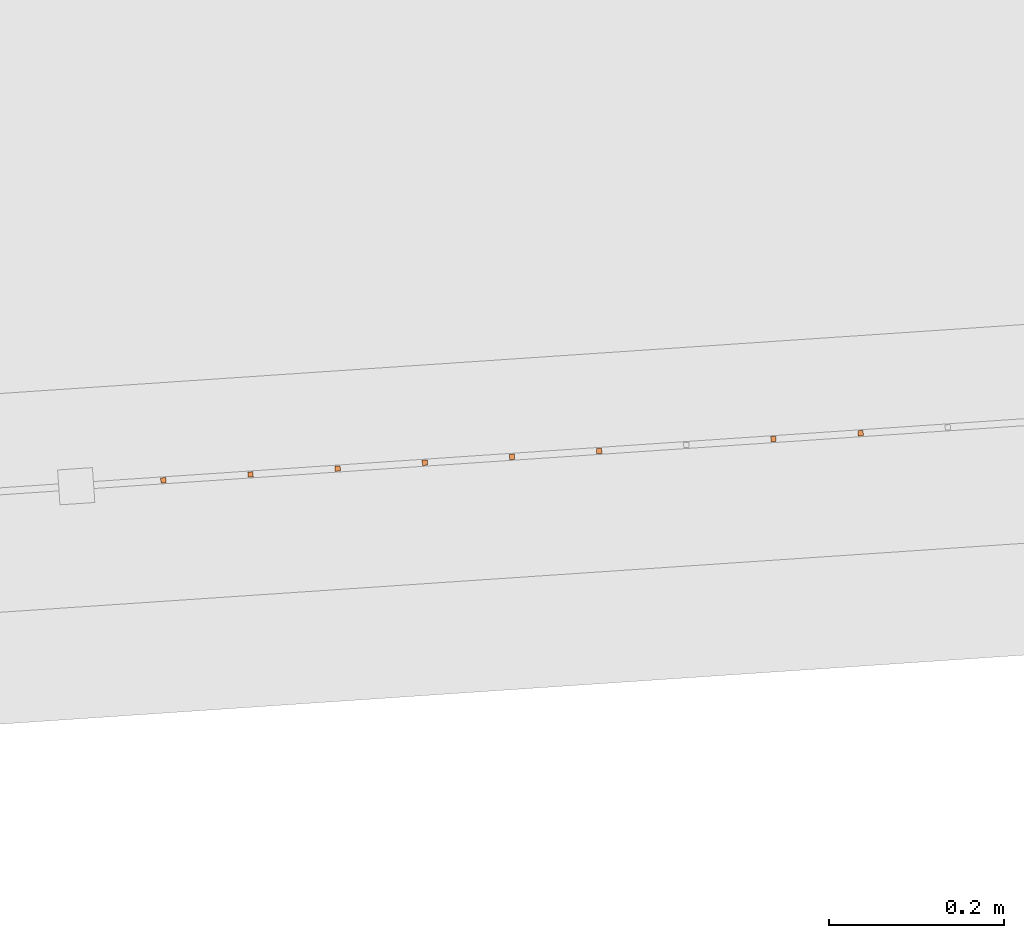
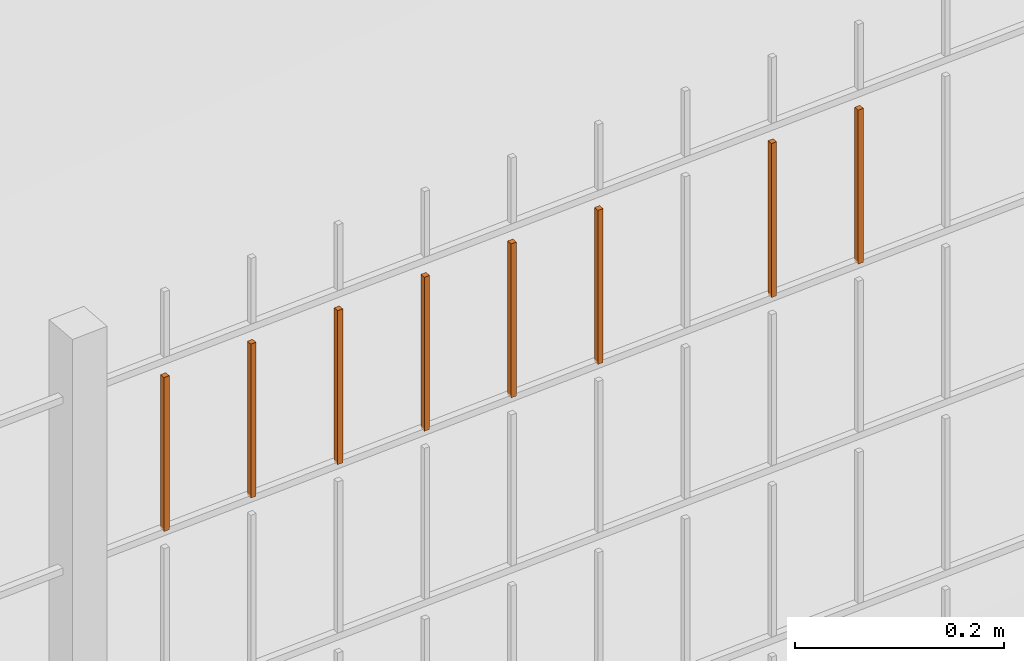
# One storey, part 183 of 1809: 8 proxies, 1 element without a shape of its own.
"""IFC2X3 building model written with IfcOpenShell, lengths in millimetres."""

from ifc_helpers import new_model, entity, si_unit, converted_unit, derived_unit, money_unit, direction, frame, origin_with_axes, place, context, subcontext, project, spatial, faceted_brep, source, transform, mapped, material, type_object, element, aggregate, save


model = new_model("IFC2X3")

# Units and contexts
model_context = context("Model", 3, precision=0.01, world=origin_with_axes(), true_north=direction((0.0, 1.0)))
body_context = subcontext(model_context, "Body", "Model", "MODEL_VIEW")
ifc_project = project(units=[si_unit("LENGTHUNIT", "METRE", prefix="MILLI"), si_unit("AREAUNIT", "SQUARE_METRE"), si_unit("VOLUMEUNIT", "CUBIC_METRE"), converted_unit("PLANEANGLEUNIT", "DEGREE", entity("IfcPlaneAngleMeasure", 0.0174532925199), si_unit("PLANEANGLEUNIT", "RADIAN"), dimensions=[0, 0, 0, 0, 0, 0, 0]), si_unit("SOLIDANGLEUNIT", "STERADIAN"), money_unit("EUR"), converted_unit("TIMEUNIT", "Year", entity("IfcTimeMeasure", 31556926.0), si_unit("TIMEUNIT", "SECOND"), dimensions=[0, 0, 1, 0, 0, 0, 0]), si_unit("MASSUNIT", "GRAM", prefix="KILO"), si_unit("THERMODYNAMICTEMPERATUREUNIT", "DEGREE_CELSIUS"), si_unit("LUMINOUSINTENSITYUNIT", "LUMEN"), si_unit("ENERGYUNIT", "JOULE", prefix="MEGA"), derived_unit("THERMALCONDUCTANCEUNIT", [(si_unit("POWERUNIT", "WATT"), 1), (si_unit("LENGTHUNIT", "METRE"), -1), (si_unit("THERMODYNAMICTEMPERATUREUNIT", "KELVIN"), -1)]), derived_unit("SPECIFICHEATCAPACITYUNIT", [(si_unit("ENERGYUNIT", "JOULE"), 1), (si_unit("MASSUNIT", "GRAM", prefix="KILO"), -1), (si_unit("THERMODYNAMICTEMPERATUREUNIT", "KELVIN"), -1)]), derived_unit("MASSDENSITYUNIT", [(si_unit("MASSUNIT", "GRAM", prefix="KILO"), 1), (si_unit("VOLUMEUNIT", "CUBIC_METRE"), -1)])], contexts=[model_context])

# Site, building, storey
site_placement = place(None, origin_with_axes())
site = spatial("IfcSite", under=ifc_project, at=site_placement, Name="Politse- ja Piirivalveameti ning Päästeameti ühishoone", CompositionType="ELEMENT")
building_placement = place(site_placement, origin_with_axes())
building = spatial("IfcBuilding", under=site, at=building_placement, Name="Politse- ja Piirivalveameti ning Päästeameti ühishoone", CompositionType="ELEMENT")
storey_placement = place(building_placement, origin_with_axes())
storey = spatial("IfcBuildingStorey", under=building, at=storey_placement, Name="Esimene korrus", CompositionType="ELEMENT", Elevation=0.0)

# Proxies
building_element_proxy_type_1 = type_object("IfcBuildingElementProxyType", Name="Railing Type", PredefinedType="NOTDEFINED")
proxy_1_placement = place(storey_placement, frame((89252.001212, -29183.4766571, 203.661247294), z_axis=(0.0, 0.0, 1.0), x_axis=(1.0, 0.0, 0.0)))
proxy_1 = element("IfcBuildingElementProxy", 1, at=proxy_1_placement, inside=storey, type_object=building_element_proxy_type_1, Name="PIIRDEAED")
ifc_material = material(Name="ET-03_Raud")
building_element_proxy_type_2 = type_object("IfcBuildingElementProxyType", Name="IfcBuildingElementProxy", PredefinedType="NOTDEFINED")
shared_shape_1 = source(origin_with_axes(), body_context, "Body", "Brep", [
    faceted_brep([(3.0, 3.0, -0.000752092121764), (-3.0, 3.0, -0.000752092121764), (-3.0, 3.0, 179.99926046), (3.0, 3.0, 179.99926046), (3.0, -3.0, 0.000752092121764), (-3.0, -3.0, 0.000752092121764), (-3.0, -3.0, 180.000764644), (3.0, -3.0, 180.000764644)], [[[0, 1, 2, 3]], [[0, 4, 5, 1]], [[1, 5, 6, 2]], [[3, 2, 6, 7]], [[4, 0, 3, 7]], [[5, 4, 7, 6]]]),
])
proxy_2_placement = place(proxy_1_placement, frame((-71962.710125, -22158.5842531, 1809.15241425), z_axis=(0.0, 0.0, 1.0), x_axis=(1.0, 0.0, 0.0)))
proxy_2 = element("IfcBuildingElementProxy", 2, at=proxy_2_placement, type_object=building_element_proxy_type_2, material=ifc_material, Name="BALUSTER - 001", context=body_context, shape_type="MappedRepresentation", body=[
    mapped(shared_shape_1, transform((0.0, 0.0, 0.0), x_axis=(-0.0673926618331, 0.997726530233, 0.0), y_axis=(-0.997726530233, -0.0673926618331, 0.0), z_axis=(0.0, 0.0, 1.0))),
])
shared_shape_2 = source(origin_with_axes(), body_context, "Body", "Brep", [
    faceted_brep([(3.0, 3.0, -0.000752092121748), (-3.0, 3.0, -0.00075209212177), (-3.0, 3.0, 179.99926046), (3.0, 3.0, 179.99926046), (3.0, -3.0, 0.00075209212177), (-3.0, -3.0, 0.000752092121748), (-3.0, -3.0, 180.000764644), (3.0, -3.0, 180.000764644)], [[[0, 1, 2, 3]], [[0, 4, 5, 1]], [[1, 5, 6, 2]], [[3, 2, 6, 7]], [[4, 0, 3, 7]], [[5, 4, 7, 6]]]),
])
proxy_3_placement = place(proxy_1_placement, frame((-71264.3015538, -22111.4093898, 1809.32790241), z_axis=(0.0, 0.0, 1.0), x_axis=(1.0, 0.0, 0.0)))
proxy_3 = element("IfcBuildingElementProxy", 3, at=proxy_3_placement, type_object=building_element_proxy_type_2, material=ifc_material, Name="BALUSTER - 001", context=body_context, shape_type="MappedRepresentation", body=[
    mapped(shared_shape_2, transform((0.0, 0.0, 0.0), x_axis=(-0.0673926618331, 0.997726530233, 0.0), y_axis=(-0.997726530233, -0.0673926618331, 0.0), z_axis=(0.0, 0.0, 1.0))),
])
proxy_4_placement = place(proxy_1_placement, frame((-71862.937472, -22151.8449869, 1809.17748398), z_axis=(0.0, 0.0, 1.0), x_axis=(1.0, 0.0, 0.0)))
proxy_4 = element("IfcBuildingElementProxy", 4, at=proxy_4_placement, type_object=building_element_proxy_type_2, material=ifc_material, Name="BALUSTER - 001", context=body_context, shape_type="MappedRepresentation", body=[
    mapped(shared_shape_2, transform((0.0, 0.0, 0.0), x_axis=(-0.0673926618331, 0.997726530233, 0.0), y_axis=(-0.997726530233, -0.0673926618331, 0.0), z_axis=(0.0, 0.0, 1.0))),
])
shared_shape_3 = source(origin_with_axes(), body_context, "Body", "Brep", [
    faceted_brep([(3.0, 3.0, -0.000752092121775), (-3.0, 3.0, -0.000752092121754), (-3.0, 3.0, 179.99926046), (3.0, 3.0, 179.99926046), (3.0, -3.0, 0.000752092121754), (-3.0, -3.0, 0.000752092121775), (-3.0, -3.0, 180.000764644), (3.0, -3.0, 180.000764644)], [[[0, 1, 2, 3]], [[0, 4, 5, 1]], [[1, 5, 6, 2]], [[3, 2, 6, 7]], [[4, 0, 3, 7]], [[5, 4, 7, 6]]]),
])
proxy_5_placement = place(proxy_1_placement, frame((-71364.0742069, -22118.148656, 1809.30283267), z_axis=(0.0, 0.0, 1.0), x_axis=(1.0, 0.0, 0.0)))
proxy_5 = element("IfcBuildingElementProxy", 5, at=proxy_5_placement, type_object=building_element_proxy_type_2, material=ifc_material, Name="BALUSTER - 001", context=body_context, shape_type="MappedRepresentation", body=[
    mapped(shared_shape_3, transform((0.0, 0.0, 0.0), x_axis=(-0.0673926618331, 0.997726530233, 0.0), y_axis=(-0.997726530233, -0.0673926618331, 0.0), z_axis=(0.0, 0.0, 1.0))),
])
shared_shape_4 = source(origin_with_axes(), body_context, "Body", "Brep", [
    faceted_brep([(3.0, 3.0, -0.000752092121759), (-3.0, 3.0, -0.000752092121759), (-3.0, 3.0, 179.99926046), (3.0, 3.0, 179.99926046), (3.0, -3.0, 0.000752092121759), (-3.0, -3.0, 0.000752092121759), (-3.0, -3.0, 180.000764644), (3.0, -3.0, 180.000764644)], [[[0, 1, 2, 3]], [[0, 4, 5, 1]], [[1, 5, 6, 2]], [[3, 2, 6, 7]], [[4, 0, 3, 7]], [[5, 4, 7, 6]]]),
])
proxy_6_placement = place(proxy_1_placement, frame((-71663.3921659, -22138.3664545, 1809.22762346), z_axis=(0.0, 0.0, 1.0), x_axis=(1.0, 0.0, 0.0)))
proxy_6 = element("IfcBuildingElementProxy", 6, at=proxy_6_placement, type_object=building_element_proxy_type_2, material=ifc_material, Name="BALUSTER - 001", context=body_context, shape_type="MappedRepresentation", body=[
    mapped(shared_shape_4, transform((0.0, 0.0, 0.0), x_axis=(-0.0673926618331, 0.997726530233, 0.0), y_axis=(-0.997726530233, -0.0673926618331, 0.0), z_axis=(0.0, 0.0, 1.0))),
])
shared_shape_5 = source(origin_with_axes(), body_context, "Body", "Brep", [
    faceted_brep([(3.0, 3.0, -0.000752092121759), (-3.0, 3.0, -0.000752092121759), (-3.0, 3.0, 179.99926046), (3.0, 3.0, 179.99926046), (3.0, -3.0, 0.000752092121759), (-3.0, -3.0, 0.000752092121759), (-3.0, -3.0, 180.000764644), (3.0, -3.0, 180.000764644)], [[[0, 1, 2, 3]], [[0, 4, 5, 1]], [[1, 5, 6, 2]], [[3, 2, 6, 7]], [[4, 0, 3, 7]], [[5, 4, 7, 6]]]),
])
proxy_7_placement = place(proxy_1_placement, frame((-72062.482778, -22165.3235193, 1809.12734451), z_axis=(0.0, 0.0, 1.0), x_axis=(1.0, 0.0, 0.0)))
proxy_7 = element("IfcBuildingElementProxy", 7, at=proxy_7_placement, type_object=building_element_proxy_type_2, material=ifc_material, Name="BALUSTER - 001", context=body_context, shape_type="MappedRepresentation", body=[
    mapped(shared_shape_5, transform((0.0, 0.0, 0.0), x_axis=(-0.0673926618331, 0.997726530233, 0.0), y_axis=(-0.997726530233, -0.0673926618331, 0.0), z_axis=(0.0, 0.0, 1.0))),
])
shared_shape_6 = source(origin_with_axes(), body_context, "Body", "Brep", [
    faceted_brep([(3.0, 3.0, -0.000752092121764), (-3.0, 3.0, -0.000752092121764), (-3.0, 3.0, 179.99926046), (3.0, 3.0, 179.99926046), (3.0, -3.0, 0.000752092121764), (-3.0, -3.0, 0.000752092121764), (-3.0, -3.0, 180.000764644), (3.0, -3.0, 180.000764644)], [[[0, 1, 2, 3]], [[0, 4, 5, 1]], [[1, 5, 6, 2]], [[3, 2, 6, 7]], [[4, 0, 3, 7]], [[5, 4, 7, 6]]]),
])
proxy_8_placement = place(proxy_1_placement, frame((-71563.6195129, -22131.6271883, 1809.2526932), z_axis=(0.0, 0.0, 1.0), x_axis=(1.0, 0.0, 0.0)))
proxy_8 = element("IfcBuildingElementProxy", 8, at=proxy_8_placement, type_object=building_element_proxy_type_2, material=ifc_material, Name="BALUSTER - 001", context=body_context, shape_type="MappedRepresentation", body=[
    mapped(shared_shape_6, transform((0.0, 0.0, 0.0), x_axis=(-0.0673926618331, 0.997726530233, 0.0), y_axis=(-0.997726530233, -0.0673926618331, 0.0), z_axis=(0.0, 0.0, 1.0))),
])
shared_shape_7 = source(origin_with_axes(), body_context, "Body", "Brep", [
    faceted_brep([(3.0, 3.0, -0.000752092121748), (-3.0, 3.0, -0.00075209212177), (-3.0, 3.0, 179.99926046), (3.0, 3.0, 179.99926046), (3.0, -3.0, 0.00075209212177), (-3.0, -3.0, 0.000752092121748), (-3.0, -3.0, 180.000764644), (3.0, -3.0, 180.000764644)], [[[0, 1, 2, 3]], [[0, 4, 5, 1]], [[1, 5, 6, 2]], [[3, 2, 6, 7]], [[4, 0, 3, 7]], [[5, 4, 7, 6]]]),
])
proxy_9_placement = place(proxy_1_placement, frame((-71763.1648189, -22145.1057207, 1809.20255372), z_axis=(0.0, 0.0, 1.0), x_axis=(1.0, 0.0, 0.0)))
proxy_9 = element("IfcBuildingElementProxy", 9, at=proxy_9_placement, type_object=building_element_proxy_type_2, material=ifc_material, Name="BALUSTER - 001", context=body_context, shape_type="MappedRepresentation", body=[
    mapped(shared_shape_7, transform((0.0, 0.0, 0.0), x_axis=(-0.0673926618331, 0.997726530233, 0.0), y_axis=(-0.997726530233, -0.0673926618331, 0.0), z_axis=(0.0, 0.0, 1.0))),
])
aggregate(proxy_1, [proxy_3, proxy_5, proxy_8, proxy_6, proxy_9, proxy_4, proxy_2, proxy_7])

save(model, "model.ifc")
